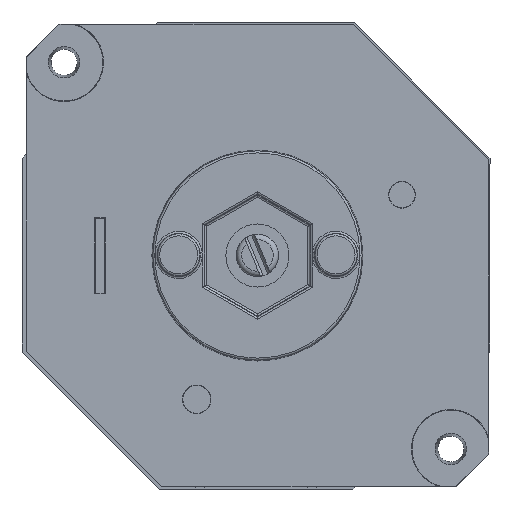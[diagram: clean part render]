
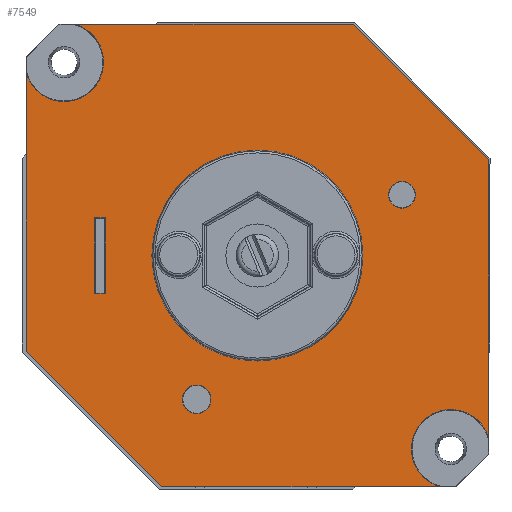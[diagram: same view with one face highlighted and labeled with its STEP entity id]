
A CAD part, top view. The second image highlights one B-rep face of the part: STEP entity #7549.
In plain terms, the highlighted planar face has unit normal (0, 0, 1).
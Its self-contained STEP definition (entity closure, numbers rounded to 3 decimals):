
#193=CIRCLE('',#7882,6.);
#194=CIRCLE('',#7885,3.75);
#195=CIRCLE('',#7890,3.75);
#196=CIRCLE('',#7896,1.354);
#197=CIRCLE('',#7897,1.278);
#542=ORIENTED_EDGE('',*,*,#2004,.F.);
#543=ORIENTED_EDGE('',*,*,#2000,.F.);
#544=ORIENTED_EDGE('',*,*,#1999,.T.);
#545=ORIENTED_EDGE('',*,*,#1998,.F.);
#546=ORIENTED_EDGE('',*,*,#1993,.F.);
#547=ORIENTED_EDGE('',*,*,#1990,.F.);
#548=ORIENTED_EDGE('',*,*,#1987,.T.);
#549=ORIENTED_EDGE('',*,*,#1986,.F.);
#550=ORIENTED_EDGE('',*,*,#2013,.T.);
#551=ORIENTED_EDGE('',*,*,#2014,.T.);
#552=ORIENTED_EDGE('',*,*,#2007,.T.);
#553=ORIENTED_EDGE('',*,*,#2011,.T.);
#554=ORIENTED_EDGE('',*,*,#2015,.F.);
#555=ORIENTED_EDGE('',*,*,#1982,.F.);
#556=ORIENTED_EDGE('',*,*,#2016,.F.);
#1982=EDGE_CURVE('',#2725,#2725,#193,.T.);
#1986=EDGE_CURVE('',#2728,#2705,#3246,.T.);
#1987=EDGE_CURVE('',#2708,#2705,#194,.T.);
#1990=EDGE_CURVE('',#2708,#2730,#3249,.T.);
#1993=EDGE_CURVE('',#2730,#2732,#3252,.T.);
#1998=EDGE_CURVE('',#2732,#2717,#3257,.T.);
#1999=EDGE_CURVE('',#2722,#2717,#195,.T.);
#2000=EDGE_CURVE('',#2722,#2735,#3258,.T.);
#2004=EDGE_CURVE('',#2735,#2728,#3262,.T.);
#2007=EDGE_CURVE('',#2740,#2739,#3265,.T.);
#2011=EDGE_CURVE('',#2739,#2743,#3269,.T.);
#2013=EDGE_CURVE('',#2743,#2744,#3271,.T.);
#2014=EDGE_CURVE('',#2744,#2740,#3272,.T.);
#2015=EDGE_CURVE('',#2745,#2745,#196,.T.);
#2016=EDGE_CURVE('',#2746,#2746,#197,.T.);
#2705=VERTEX_POINT('',#10002);
#2708=VERTEX_POINT('',#10018);
#2717=VERTEX_POINT('',#10051);
#2722=VERTEX_POINT('',#10073);
#2725=VERTEX_POINT('',#10085);
#2728=VERTEX_POINT('',#10092);
#2730=VERTEX_POINT('',#10101);
#2732=VERTEX_POINT('',#10107);
#2735=VERTEX_POINT('',#10120);
#2739=VERTEX_POINT('',#10132);
#2740=VERTEX_POINT('',#10134);
#2743=VERTEX_POINT('',#10141);
#2744=VERTEX_POINT('',#10146);
#2745=VERTEX_POINT('',#10149);
#2746=VERTEX_POINT('',#10151);
#3246=LINE('',#10093,#3864);
#3249=LINE('',#10100,#3867);
#3252=LINE('',#10106,#3870);
#3257=LINE('',#10115,#3875);
#3258=LINE('',#10119,#3876);
#3262=LINE('',#10127,#3880);
#3265=LINE('',#10133,#3883);
#3269=LINE('',#10142,#3887);
#3271=LINE('',#10145,#3889);
#3272=LINE('',#10147,#3890);
#3864=VECTOR('',#8523,1000.);
#3867=VECTOR('',#8532,1000.);
#3870=VECTOR('',#8537,1000.);
#3875=VECTOR('',#8544,1000.);
#3876=VECTOR('',#8551,1000.);
#3880=VECTOR('',#8557,1000.);
#3883=VECTOR('',#8562,1000.);
#3887=VECTOR('',#8568,1000.);
#3889=VECTOR('',#8572,1000.);
#3890=VECTOR('',#8573,1000.);
#4424=EDGE_LOOP('',(#542,#543,#544,#545,#546,#547,#548,#549));
#4425=EDGE_LOOP('',(#550,#551,#552,#553));
#4426=EDGE_LOOP('',(#554));
#4427=EDGE_LOOP('',(#555));
#4428=EDGE_LOOP('',(#556));
#4782=FACE_BOUND('',#4424,.T.);
#4783=FACE_BOUND('',#4425,.T.);
#4784=FACE_BOUND('',#4426,.T.);
#4785=FACE_BOUND('',#4427,.T.);
#4786=FACE_BOUND('',#4428,.T.);
#5125=PLANE('',#7895);
#7549=ADVANCED_FACE('',(#4782,#4783,#4784,#4785,#4786),#5125,.T.);
#7882=AXIS2_PLACEMENT_3D('',#10084,#8516,#8517);
#7885=AXIS2_PLACEMENT_3D('',#10095,#8526,#8527);
#7890=AXIS2_PLACEMENT_3D('',#10117,#8547,#8548);
#7895=AXIS2_PLACEMENT_3D('',#10144,#8570,#8571);
#7896=AXIS2_PLACEMENT_3D('',#10148,#8574,#8575);
#7897=AXIS2_PLACEMENT_3D('',#10150,#8576,#8577);
#8516=DIRECTION('',(0.,0.,1.));
#8517=DIRECTION('',(1.,0.,0.));
#8523=DIRECTION('',(0.,-1.,0.));
#8526=DIRECTION('',(0.,0.,-1.));
#8527=DIRECTION('',(0.,-1.,0.));
#8532=DIRECTION('',(-1.,0.,0.));
#8537=DIRECTION('',(-0.707,0.707,0.));
#8544=DIRECTION('',(0.,1.,0.));
#8547=DIRECTION('',(0.,0.,-1.));
#8548=DIRECTION('',(0.,-1.,0.));
#8551=DIRECTION('',(1.,0.,0.));
#8557=DIRECTION('',(0.707,-0.707,0.));
#8562=DIRECTION('',(-1.,0.,0.));
#8568=DIRECTION('',(0.,1.,0.));
#8570=DIRECTION('',(0.,0.,1.));
#8571=DIRECTION('',(1.,0.,0.));
#8572=DIRECTION('',(1.,0.,0.));
#8573=DIRECTION('',(0.,-1.,0.));
#8574=DIRECTION('',(0.,0.,1.));
#8575=DIRECTION('',(1.,0.,0.));
#8576=DIRECTION('',(0.,0.,1.));
#8577=DIRECTION('',(1.,0.,0.));
#10002=CARTESIAN_POINT('',(22.,-17.369,-5.587));
#10018=CARTESIAN_POINT('',(17.408,-22.,-5.587));
#10051=CARTESIAN_POINT('',(-22.,17.415,-5.587));
#10073=CARTESIAN_POINT('',(-17.362,22.,-5.587));
#10084=CARTESIAN_POINT('',(0.,0.,-5.587));
#10085=CARTESIAN_POINT('',(6.,0.,-5.587));
#10092=CARTESIAN_POINT('',(22.,9.113,-5.587));
#10093=CARTESIAN_POINT('',(22.,0.,-5.587));
#10095=CARTESIAN_POINT('',(18.389,-18.381,-5.587));
#10100=CARTESIAN_POINT('',(0.,-22.,-5.587));
#10101=CARTESIAN_POINT('',(-9.113,-22.,-5.587));
#10106=CARTESIAN_POINT('',(-15.556,-15.556,-5.587));
#10107=CARTESIAN_POINT('',(-22.,-9.113,-5.587));
#10115=CARTESIAN_POINT('',(-22.,0.,-5.587));
#10117=CARTESIAN_POINT('',(-18.379,18.39,-5.587));
#10119=CARTESIAN_POINT('',(0.,22.,-5.587));
#10120=CARTESIAN_POINT('',(9.113,22.,-5.587));
#10127=CARTESIAN_POINT('',(15.556,15.556,-5.587));
#10132=CARTESIAN_POINT('',(-15.469,-3.6,-5.587));
#10133=CARTESIAN_POINT('',(0.,-3.6,-5.587));
#10134=CARTESIAN_POINT('',(-14.469,-3.6,-5.587));
#10141=CARTESIAN_POINT('',(-15.469,3.6,-5.587));
#10142=CARTESIAN_POINT('',(-15.469,0.,-5.587));
#10144=CARTESIAN_POINT('',(0.,0.,-5.587));
#10145=CARTESIAN_POINT('',(0.,3.6,-5.587));
#10146=CARTESIAN_POINT('',(-14.469,3.6,-5.587));
#10147=CARTESIAN_POINT('',(-14.469,0.,-5.587));
#10148=CARTESIAN_POINT('',(-5.773,-13.662,-5.587));
#10149=CARTESIAN_POINT('',(-4.418,-13.662,-5.587));
#10150=CARTESIAN_POINT('',(13.748,5.791,-5.587));
#10151=CARTESIAN_POINT('',(15.026,5.791,-5.587));
